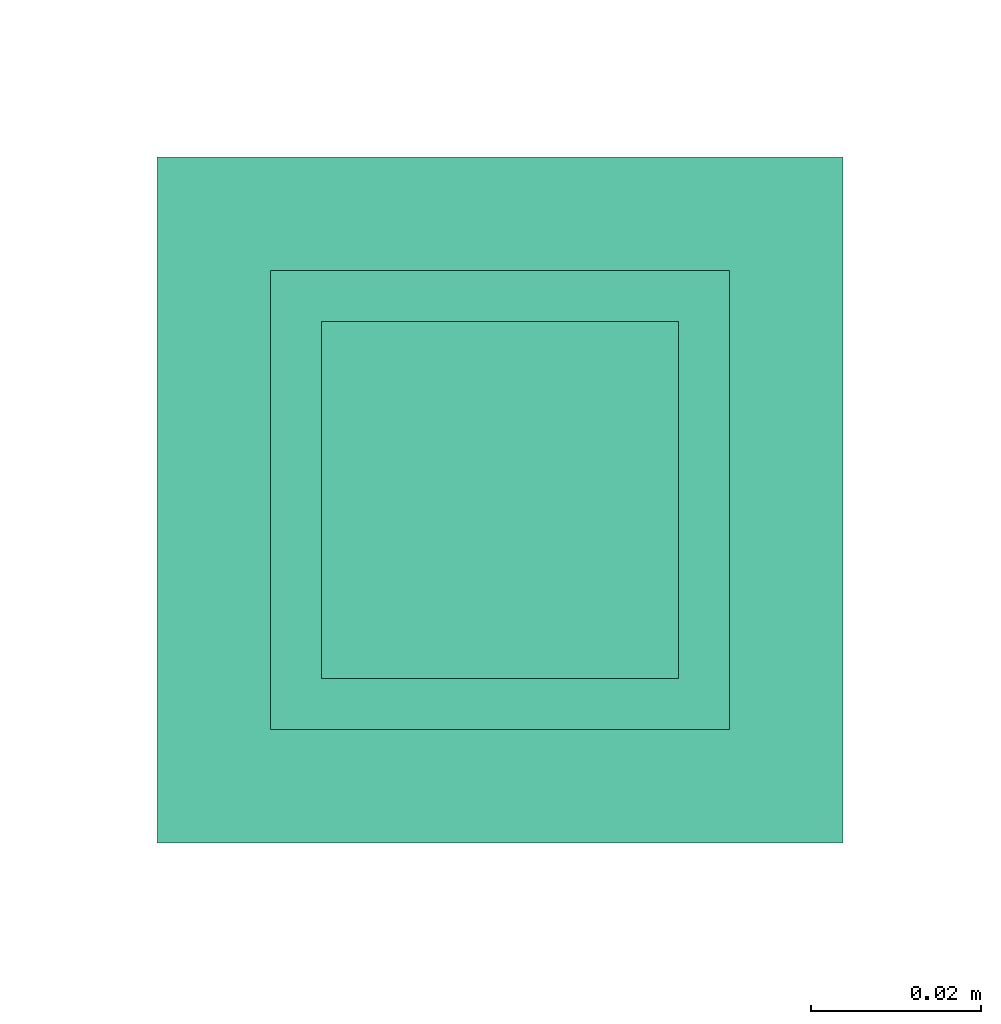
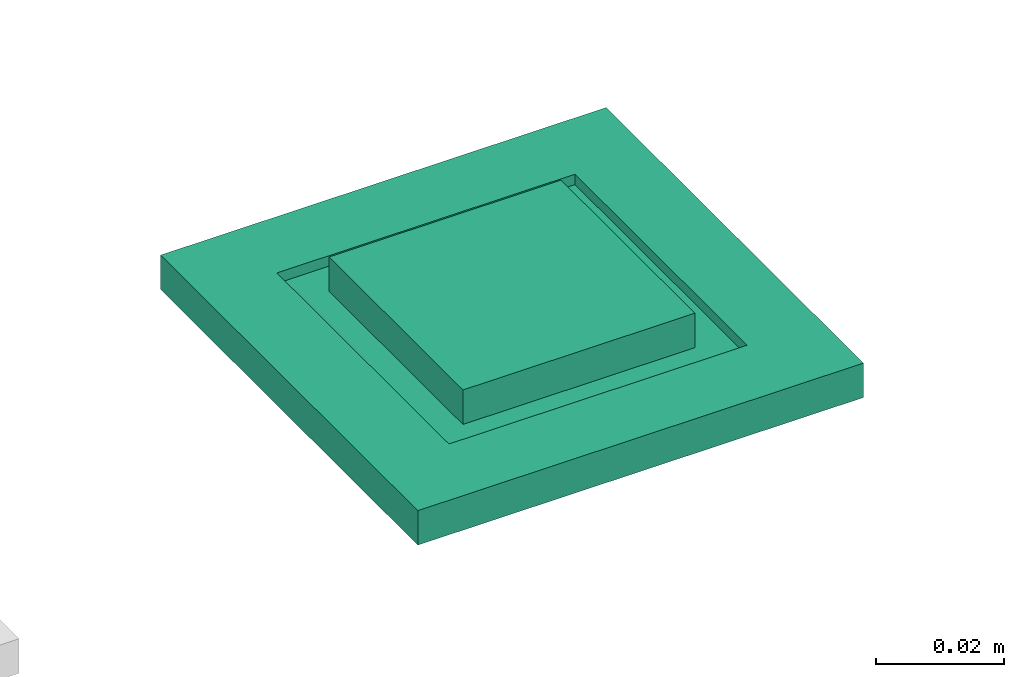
# One storey, part 106 of 146: 1 flow terminal.
"""IFC2X3 building model written with IfcOpenShell, lengths in metres."""

import ifcopenshell
import ifcopenshell.guid

model = None  # the IFC model being written
_history = None  # IfcOwnerHistory: only IFC2X3 demands one
_inside = {}  # id of a spatial element -> (the spatial element, [elements in it])
_under = {}  # id of a project, library or spatial element -> (it, [spatial elements below it])
_declared = {}  # id of a project -> (the project, [libraries it declares])
_typed = {}  # id of a type object -> (the type object, [elements of that type])
_made_of = {}  # id of a material, layer set ... -> (it, [elements and type objects made of it])


def new_model(schema):
    """Start an empty IFC model of exactly this schema.

    Asked for "IFC4X3", IfcOpenShell would pick the latest addendum, in which some entities
    have other attributes; the version numbers below select the first issue.
    IFC2X3 requires an IfcOwnerHistory on every rooted entity: one is made here for all.
    """
    global model, _history
    if schema == "IFC4X3":
        model = ifcopenshell.file(schema_version=(4, 3, 0, 0))
    else:
        model = ifcopenshell.file(schema=schema)
    _inside.clear()
    _under.clear()
    _declared.clear()
    _typed.clear()
    _made_of.clear()
    _history = None
    if model.schema == "IFC2X3":
        org = make("IfcOrganization", Name="unknown")
        user = make(
            "IfcPersonAndOrganization",
            ThePerson=make("IfcPerson", FamilyName="unknown"),
            TheOrganization=org,
        )
        app = make(
            "IfcApplication",
            ApplicationDeveloper=org,
            Version="unknown",
            ApplicationFullName="unknown",
            ApplicationIdentifier="unknown",
        )
        _history = make(
            "IfcOwnerHistory",
            OwningUser=user,
            OwningApplication=app,
            ChangeAction="ADDED",
            CreationDate=0,
        )
    return model


def make(cls, **values):
    """One entity of the class cls with the attributes given. An attribute that is None is left unset."""
    return model.create_entity(
        cls, **{name: value for name, value in values.items() if value is not None}
    )


def entity(cls, *values):
    """Any entity or typed value of the class cls, its attributes in the order of the schema. None: left unset."""
    e = model.create_entity(cls)
    for i, value in enumerate(values):
        if value is not None:
            e[i] = value
    return e


def rooted(cls, **values):
    """An entity with a GlobalId (a new one), such as an element, a storey or a relation."""
    return make(cls, GlobalId=ifcopenshell.guid.new(), OwnerHistory=_history, **values)


def si_unit(unit_type, name, prefix=None):
    """IfcSIUnit, for example si_unit("LENGTHUNIT", "METRE", prefix="MILLI")."""
    return make("IfcSIUnit", UnitType=unit_type, Prefix=prefix, Name=name)


def converted_unit(unit_type, name, factor, base, dimensions=None, offset=None):
    """IfcConversionBasedUnit, such as the inch: factor (a typed value) times the base unit."""
    return make(
        "IfcConversionBasedUnit"
        if offset is None
        else "IfcConversionBasedUnitWithOffset",
        ConversionOffset=offset,
        Dimensions=None
        if dimensions is None
        else entity("IfcDimensionalExponents", *dimensions),
        UnitType=unit_type,
        Name=name,
        ConversionFactor=make(
            "IfcMeasureWithUnit", ValueComponent=factor, UnitComponent=base
        ),
    )


def derived_unit(unit_type, elements):
    """IfcDerivedUnit: a product of units, each with its exponent."""
    return make(
        "IfcDerivedUnit",
        Elements=[
            make("IfcDerivedUnitElement", Unit=unit, Exponent=power)
            for unit, power in elements
        ],
        UnitType=unit_type,
    )


def assignment(units):
    """IfcUnitAssignment: the units of a project."""
    return None if units is None else make("IfcUnitAssignment", Units=units)


def point(xyz):
    """IfcCartesianPoint."""
    return None if xyz is None else make("IfcCartesianPoint", Coordinates=xyz)


def direction(xyz):
    """IfcDirection."""
    return None if xyz is None else make("IfcDirection", DirectionRatios=xyz)


def frame(location, z_axis=None, x_axis=None):
    """IfcAxis2Placement3D, a coordinate frame: its origin and axes. An axis left out is left unset."""
    return make(
        "IfcAxis2Placement3D",
        Location=point(location),
        Axis=direction(z_axis),
        RefDirection=direction(x_axis),
    )


def origin():
    """The frame at (0, 0, 0) with its axes left unset."""
    return frame((0.0, 0.0, 0.0))


def place(relative_to, where):
    """IfcLocalPlacement: puts the frame where relative to a parent placement (None: the world)."""
    return make(
        "IfcLocalPlacement", PlacementRelTo=relative_to, RelativePlacement=where
    )


def context(
    kind, dimensions, precision=None, world=None, true_north=None, identifier=None
):
    """IfcGeometricRepresentationContext, for example the 3D "Model" context."""
    return make(
        "IfcGeometricRepresentationContext",
        ContextIdentifier=identifier,
        ContextType=kind,
        CoordinateSpaceDimension=dimensions,
        Precision=precision,
        WorldCoordinateSystem=world,
        TrueNorth=true_north,
    )


def subcontext(parent, identifier, kind, view, scale=None):
    """IfcGeometricRepresentationSubContext, for example "Body" below "Model"."""
    return make(
        "IfcGeometricRepresentationSubContext",
        ContextIdentifier=identifier,
        ContextType=kind,
        ParentContext=parent,
        TargetScale=scale,
        TargetView=view,
    )


def project(units=None, contexts=None):
    """IfcProject with its units and contexts."""
    return rooted(
        "IfcProject",
        Name="project",
        RepresentationContexts=contexts,
        UnitsInContext=assignment(units),
    )


def spatial(cls, under=None, at=None, **own):
    """A site, building, storey or space (cls), placed at a placement, below another one or the project."""
    s = rooted(cls, ObjectPlacement=at, **own)
    if under is not None:
        _under.setdefault(under.id(), (under, []))[1].append(s)
    return s


def faces_of(points, faces, orient=None, outer=None):
    """IfcFace entities. A face is a list of loops; a loop is a list of indices into points, from 0.

    orient and outer hold one flag for each loop. By default every Orientation is true, the
    first loop of a face is its IfcFaceOuterBound and the others are IfcFaceBound.
    """
    made = []
    for i, loops in enumerate(faces):
        bounds = []
        for j, loop in enumerate(loops):
            is_outer = j == 0 if outer is None else outer[i][j]
            bounds.append(
                make(
                    "IfcFaceOuterBound" if is_outer else "IfcFaceBound",
                    Bound=make("IfcPolyLoop", Polygon=[points[k] for k in loop]),
                    Orientation=True if orient is None else orient[i][j],
                )
            )
        made.append(make("IfcFace", Bounds=bounds))
    return made


def faceted_brep(points, faces, orient=None, outer=None, voids=None):
    """IfcFacetedBrep: a solid bounded by flat faces; with voids (closed shells), ...WithVoids."""
    shared = [point(p) for p in points]
    hull = make("IfcClosedShell", CfsFaces=faces_of(shared, faces, orient, outer))
    if voids is None:
        return make("IfcFacetedBrep", Outer=hull)
    return make(
        "IfcFacetedBrepWithVoids",
        Outer=hull,
        Voids=[
            make(cls, CfsFaces=faces_of(shared, fs, o, b)) for cls, fs, o, b in voids
        ],
    )


def shape(context_of_items, identifier, shape_type, items):
    """IfcShapeRepresentation: the items that make up one representation, for example the "Body"."""
    return make(
        "IfcShapeRepresentation",
        ContextOfItems=context_of_items,
        RepresentationIdentifier=identifier,
        RepresentationType=shape_type,
        Items=items,
    )


def source(mapping_origin, context_of_items, identifier, shape_type, items):
    """IfcRepresentationMap: a shape defined once, which mapped items show again and again."""
    return make(
        "IfcRepresentationMap",
        MappingOrigin=mapping_origin,
        MappedRepresentation=shape(context_of_items, identifier, shape_type, items),
    )


def transform(
    local_origin,
    x_axis=None,
    y_axis=None,
    z_axis=None,
    scale=None,
    scale2=None,
    scale3=None,
    uniform=True,
):
    """IfcCartesianTransformationOperator3D, or its non-uniform kind. x_axis, y_axis, z_axis: its Axis1, 2, 3."""
    if uniform:
        return make(
            "IfcCartesianTransformationOperator3D",
            Axis1=direction(x_axis),
            Axis2=direction(y_axis),
            LocalOrigin=point(local_origin),
            Scale=scale,
            Axis3=direction(z_axis),
        )
    return make(
        "IfcCartesianTransformationOperator3DnonUniform",
        Axis1=direction(x_axis),
        Axis2=direction(y_axis),
        LocalOrigin=point(local_origin),
        Scale=scale,
        Axis3=direction(z_axis),
        Scale2=scale2,
        Scale3=scale3,
    )


def mapped(mapping_source, mapping_target):
    """IfcMappedItem: shows the shape of a source again, moved by a transform."""
    return make(
        "IfcMappedItem", MappingSource=mapping_source, MappingTarget=mapping_target
    )


def made_of(thing, what):
    """Note that an element or type object is made of a material, layer set ...; save() writes the relation."""
    if what is not None:
        _made_of.setdefault(what.id(), (what, []))[1].append(thing)
    return thing


def type_object(cls, material=None, **own):
    """A type object (cls), such as IfcWallType, which elements share."""
    return made_of(rooted(cls, **own), material)


def type_shapes(of_type, sources):
    """Give a type object the sources (RepresentationMaps) that its elements show as mapped items."""
    of_type.RepresentationMaps = sources


def element(
    cls,
    number,
    at=None,
    inside=None,
    cuts=None,
    type_object=None,
    material=None,
    context=None,
    identifier="Body",
    shape_type=None,
    held_by="IfcProductDefinitionShape",
    body=None,
    shapes=None,
    **own,
):
    """One element of the class cls, such as IfcWall. Its Tag is "e" and its number.

    at: its placement. inside: the storey or other place that contains it. cuts: it is an
    opening in that element (IfcRelVoidsElement). A single representation is given by context,
    identifier, shape_type and body (its items); several are given by shapes. held_by: the class
    of the entity that holds the representations. save() writes the other relations.
    """
    e = rooted(cls, Tag="e%d" % number, ObjectPlacement=at, **own)
    if body is not None:
        shapes = [shape(context, identifier, shape_type, body)]
    if shapes is not None:
        e.Representation = make(held_by, Representations=shapes)
    if inside is not None:
        _inside.setdefault(inside.id(), (inside, []))[1].append(e)
    if cuts is not None:
        rooted(
            "IfcRelVoidsElement", RelatingBuildingElement=cuts, RelatedOpeningElement=e
        )
    if type_object is not None:
        _typed.setdefault(type_object.id(), (type_object, []))[1].append(e)
    return made_of(e, material)


def aggregate(whole, parts):
    """IfcRelAggregates: a whole, such as a stair, and the parts it consists of."""
    return rooted("IfcRelAggregates", RelatingObject=whole, RelatedObjects=parts)


def save(model, path):
    """Write the relations noted so far, then the file.

    IfcRelAggregates (storeys below a building ...), IfcRelContainedInSpatialStructure (elements
    in a storey), IfcRelDefinesByType, IfcRelAssociatesMaterial and IfcRelDeclares: one each for
    every whole, place, type object, material and project.
    """
    for whole, parts in _under.values():
        aggregate(whole, parts)
    for where, things in _inside.values():
        rooted(
            "IfcRelContainedInSpatialStructure",
            RelatedElements=things,
            RelatingStructure=where,
        )
    for kind, things in _typed.values():
        rooted("IfcRelDefinesByType", RelatedObjects=things, RelatingType=kind)
    for what, things in _made_of.values():
        rooted("IfcRelAssociatesMaterial", RelatedObjects=things, RelatingMaterial=what)
    for by, libraries in _declared.values():
        rooted("IfcRelDeclares", RelatingContext=by, RelatedDefinitions=libraries)
    model.write(path)


model = new_model("IFC2X3")

# Units and contexts
model_context = context("Model", 3, precision=1e-05, world=origin(), true_north=direction((6.12303176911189e-17, 1.0)))
body_context = subcontext(model_context, "Body", "Model", "MODEL_VIEW")
ifc_project = project(units=[si_unit("LENGTHUNIT", "METRE"), si_unit("AREAUNIT", "SQUARE_METRE"), si_unit("VOLUMEUNIT", "CUBIC_METRE"), converted_unit("PLANEANGLEUNIT", "DEGREE", entity("IfcRatioMeasure", 0.0174532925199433), si_unit("PLANEANGLEUNIT", "RADIAN"), dimensions=[0, 0, 0, 0, 0, 0, 0]), si_unit("MASSUNIT", "GRAM", prefix="KILO"), derived_unit("MASSDENSITYUNIT", [(si_unit("MASSUNIT", "GRAM", prefix="KILO"), 1), (si_unit("LENGTHUNIT", "METRE"), -3)]), si_unit("TIMEUNIT", "SECOND"), si_unit("FREQUENCYUNIT", "HERTZ"), si_unit("THERMODYNAMICTEMPERATUREUNIT", "DEGREE_CELSIUS"), derived_unit("THERMALTRANSMITTANCEUNIT", [(si_unit("MASSUNIT", "GRAM", prefix="KILO"), 1), (si_unit("THERMODYNAMICTEMPERATUREUNIT", "KELVIN"), -1), (si_unit("TIMEUNIT", "SECOND"), -3)]), derived_unit("VOLUMETRICFLOWRATEUNIT", [(si_unit("LENGTHUNIT", "METRE"), 3), (si_unit("TIMEUNIT", "SECOND"), -1)]), si_unit("ELECTRICCURRENTUNIT", "AMPERE"), si_unit("ELECTRICVOLTAGEUNIT", "VOLT"), si_unit("POWERUNIT", "WATT"), si_unit("FORCEUNIT", "NEWTON"), si_unit("ILLUMINANCEUNIT", "LUX"), si_unit("LUMINOUSFLUXUNIT", "LUMEN"), si_unit("LUMINOUSINTENSITYUNIT", "CANDELA"), derived_unit("USERDEFINED", [(si_unit("MASSUNIT", "GRAM", prefix="KILO"), -1), (si_unit("LENGTHUNIT", "METRE"), -2), (si_unit("TIMEUNIT", "SECOND"), 3), (si_unit("LUMINOUSFLUXUNIT", "LUMEN"), 1)]), derived_unit("LINEARVELOCITYUNIT", [(si_unit("LENGTHUNIT", "METRE"), 1), (si_unit("TIMEUNIT", "SECOND"), -1)]), si_unit("PRESSUREUNIT", "PASCAL"), derived_unit("USERDEFINED", [(si_unit("LENGTHUNIT", "METRE"), -2), (si_unit("MASSUNIT", "GRAM", prefix="KILO"), 1), (si_unit("TIMEUNIT", "SECOND"), -2)])], contexts=[model_context])

# Site, building, storey
site_placement = place(None, origin())
site = spatial("IfcSite", under=ifc_project, at=site_placement, Name="Default", CompositionType="ELEMENT")
building_placement = place(site_placement, origin())
building = spatial("IfcBuilding", under=site, at=building_placement, CompositionType="ELEMENT")
storey_placement = place(building_placement, origin())
storey = spatial("IfcBuildingStorey", under=building, at=storey_placement, Name="S01", CompositionType="ELEMENT", Elevation=0.0)

# Flow terminal
electric_appliance_type = type_object("IfcElectricApplianceType", Name="RJ45 IP21", PredefinedType="NOTDEFINED")
shared_shape = source(origin(), body_context, "Body", "Brep", [
    faceted_brep([(0.00200000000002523, 0.0, 0.00799999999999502), (0.00400000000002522, 0.0, 0.00799999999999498), (0.00500000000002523, 0.00199999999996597, 0.00799999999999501), (0.0110000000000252, 0.00199999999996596, 0.00799999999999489), (0.0120000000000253, 0.0, 0.00799999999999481), (0.0140000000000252, 0.0, 0.00799999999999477), (0.0140000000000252, 0.00399999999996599, 0.00799999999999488), (0.00200000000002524, 0.00399999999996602, 0.00799999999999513), (0.00200000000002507, 0.0, 0.0), (0.00200000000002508, 0.00399999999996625, 0.0), (0.0140000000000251, 0.00399999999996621, 0.0), (0.0140000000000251, 0.0, 0.0), (0.0120000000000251, 0.0, 0.0), (0.0110000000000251, 0.00199999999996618, 0.0), (0.00500000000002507, 0.0019999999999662, 0.0), (0.00400000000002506, 0.0, 0.0)], [[[0, 1, 2, 3, 4, 5, 6, 7]], [[8, 9, 10, 11, 12, 13, 14, 15]], [[1, 0, 8, 15]], [[2, 1, 15, 14]], [[3, 2, 14, 13]], [[4, 3, 13, 12]], [[5, 4, 12, 11]], [[6, 5, 11, 10]], [[7, 6, 10, 9]], [[0, 7, 9, 8]]]),
    faceted_brep([(-0.0139999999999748, 0.0, 0.00799999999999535), (-0.0119999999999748, 0.0, 0.00799999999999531), (-0.0109999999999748, 0.00199999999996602, 0.00799999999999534), (-0.00499999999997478, 0.00199999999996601, 0.00799999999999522), (-0.0039999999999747, 0.0, 0.00799999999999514), (-0.00199999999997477, 0.0, 0.0079999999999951), (-0.00199999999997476, 0.00399999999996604, 0.00799999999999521), (-0.0139999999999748, 0.00399999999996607, 0.00799999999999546), (-0.0139999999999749, 0.0, 0.0), (-0.0139999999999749, 0.00399999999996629, 0.0), (-0.00199999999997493, 0.00399999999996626, 0.0), (-0.00199999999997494, 0.0, 0.0), (-0.00399999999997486, 0.0, 0.0), (-0.00499999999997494, 0.00199999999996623, 0.0), (-0.0109999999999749, 0.00199999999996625, 0.0), (-0.0119999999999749, 0.0, 0.0)], [[[0, 1, 2, 3, 4, 5, 6, 7]], [[8, 9, 10, 11, 12, 13, 14, 15]], [[1, 0, 8, 15]], [[2, 1, 15, 14]], [[3, 2, 14, 13]], [[4, 3, 13, 12]], [[5, 4, 12, 11]], [[6, 5, 11, 10]], [[7, 6, 10, 9]], [[0, 7, 9, 8]]]),
    faceted_brep([(0.0140000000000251, 0.00399999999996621, 0.0), (0.00200000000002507, 0.00399999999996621, 0.0), (0.00200000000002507, -0.00350000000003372, 0.0), (0.0140000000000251, -0.00350000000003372, 0.0), (0.0140000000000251, 0.00399999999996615, 0.00199999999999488), (0.00200000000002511, 0.00399999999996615, 0.00199999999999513), (0.00200000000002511, -0.00393859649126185, 0.00199999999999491), (0.0140000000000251, -0.00393859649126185, 0.00199999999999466), (0.0210000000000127, 0.0209999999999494, 0.00199999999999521), (-0.0209999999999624, 0.0209999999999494, 0.00199999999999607), (-0.0209999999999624, -0.0210000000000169, 0.00199999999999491), (0.0210000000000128, -0.0210000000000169, 0.00199999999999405), (-0.0139999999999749, 0.0039999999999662, 0.00199999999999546), (-0.0019999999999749, 0.0039999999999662, 0.00199999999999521), (-0.00199999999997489, -0.0039385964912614, 0.00199999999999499), (-0.0139999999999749, -0.00393859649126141, 0.00199999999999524), (0.0210000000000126, 0.0209999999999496, -0.00460000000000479), (0.0210000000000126, -0.0210000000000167, -0.00460000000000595), (-0.0209999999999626, -0.0210000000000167, -0.00460000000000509), (-0.0209999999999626, 0.0209999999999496, -0.00460000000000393), (-0.00199999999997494, 0.00399999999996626, 0.0), (-0.0139999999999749, 0.00399999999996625, 0.0), (-0.0139999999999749, -0.00350000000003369, 0.0), (-0.00199999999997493, -0.00350000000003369, 0.0)], [[[0, 1, 2, 3]], [[1, 0, 4, 5]], [[2, 1, 5, 6]], [[3, 2, 6, 7]], [[0, 3, 7, 4]], [[5, 4, 7, 6], [8, 9, 10, 11], [12, 13, 14, 15]], [[16, 17, 18, 19]], [[9, 8, 16, 19]], [[10, 9, 19, 18]], [[11, 10, 18, 17]], [[8, 11, 17, 16]], [[20, 21, 22, 23]], [[21, 20, 13, 12]], [[22, 21, 12, 15]], [[23, 22, 15, 14]], [[20, 23, 14, 13]]], outer=[[True], [True], [True], [True], [True], [False, True, False], [True], [True], [True], [True], [True], [True], [True], [True], [True], [True]]),
    faceted_brep([(0.0270000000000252, 0.026999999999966, 0.0113999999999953), (-0.0269999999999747, 0.026999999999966, 0.0113999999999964), (-0.0269999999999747, -0.0270000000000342, 0.0113999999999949), (0.0270000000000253, -0.0270000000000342, 0.0113999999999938), (0.0020000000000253, 0.00399999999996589, 0.0113999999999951), (0.0140000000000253, 0.00399999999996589, 0.0113999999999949), (0.0140000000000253, -0.00600000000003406, 0.0113999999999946), (0.0020000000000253, -0.00600000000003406, 0.0113999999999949), (-0.0139999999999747, 0.00399999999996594, 0.0113999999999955), (-0.00199999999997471, 0.00399999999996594, 0.0113999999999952), (-0.00199999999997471, -0.0060000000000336, 0.0113999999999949), (-0.0139999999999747, -0.00600000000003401, 0.0113999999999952), (0.0270000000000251, 0.0269999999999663, 0.00199999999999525), (0.0270000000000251, -0.0270000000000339, 0.00199999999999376), (-0.0269999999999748, -0.0270000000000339, 0.00199999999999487), (-0.0269999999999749, 0.0269999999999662, 0.00199999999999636), (0.0140000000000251, 0.00399999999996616, 0.00199999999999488), (0.00200000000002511, 0.00399999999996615, 0.00199999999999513), (0.00200000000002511, -0.00393859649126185, 0.00199999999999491), (0.0140000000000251, -0.00393859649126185, 0.00199999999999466), (-0.00199999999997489, 0.0039999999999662, 0.00199999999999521), (-0.0139999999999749, 0.0039999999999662, 0.00199999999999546), (-0.0139999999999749, -0.0039385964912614, 0.00199999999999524), (-0.00199999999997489, -0.0039385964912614, 0.00199999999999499)], [[[0, 1, 2, 3], [4, 5, 6, 7], [8, 9, 10, 11]], [[12, 13, 14, 15], [16, 17, 18, 19], [20, 21, 22, 23]], [[1, 0, 12, 15]], [[2, 1, 15, 14]], [[3, 2, 14, 13]], [[0, 3, 13, 12]], [[4, 17, 16, 5]], [[17, 4, 7, 18]], [[18, 7, 6, 19]], [[5, 16, 19, 6]], [[8, 21, 20, 9]], [[21, 8, 11, 22]], [[22, 11, 10, 23]], [[9, 20, 23, 10]]]),
    faceted_brep([(0.027000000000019, 0.0269999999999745, 0.00659999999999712), (-0.0269999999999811, 0.0269999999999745, 0.00659999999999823), (-0.026999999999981, -0.0270000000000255, 0.00659999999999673), (0.027000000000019, -0.0270000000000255, 0.00659999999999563), (0.040350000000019, 0.0403499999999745, 0.00659999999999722), (0.040350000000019, -0.0403500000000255, 0.00659999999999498), (-0.0403499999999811, -0.0403500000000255, 0.00659999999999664), (-0.0403499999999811, 0.0403499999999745, 0.00659999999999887), (-0.026999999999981, 0.0269999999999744, 0.0103999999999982), (0.027000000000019, 0.0269999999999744, 0.0103999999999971), (-0.026999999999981, -0.0270000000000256, 0.0103999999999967), (0.027000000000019, -0.0270000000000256, 0.0103999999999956)], [[[0, 1, 2, 3], [4, 5, 6, 7]], [[4, 7, 8, 9]], [[7, 6, 10, 8]], [[6, 5, 11, 10]], [[5, 4, 9, 11]], [[0, 9, 8, 1]], [[1, 8, 10, 2]], [[2, 10, 11, 3]], [[9, 0, 3, 11]]], outer=[[False, True], [True], [True], [True], [True], [True], [True], [True], [True]]),
    faceted_brep([(0.040350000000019, 0.0403499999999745, 0.00659999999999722), (-0.0403499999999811, 0.0403499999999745, 0.00659999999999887), (-0.0403499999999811, -0.0403500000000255, 0.00659999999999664), (0.040350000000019, -0.0403500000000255, 0.00659999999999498), (-0.0269999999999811, 0.0269999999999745, 0.00659999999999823), (0.0270000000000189, 0.0269999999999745, 0.00659999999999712), (0.0270000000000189, -0.0270000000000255, 0.00659999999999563), (-0.0269999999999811, -0.0270000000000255, 0.00659999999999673), (0.0403500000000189, 0.0403499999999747, 0.0), (0.0403500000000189, -0.0403500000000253, 0.0), (-0.0403499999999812, -0.0403500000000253, 0.0), (-0.0403499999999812, 0.0403499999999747, 0.0), (0.0270000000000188, 0.0269999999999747, 0.0), (-0.0269999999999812, 0.0269999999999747, 0.0), (-0.0269999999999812, -0.0270000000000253, 0.0), (0.0270000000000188, -0.0270000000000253, 0.0)], [[[0, 1, 2, 3], [4, 5, 6, 7]], [[8, 9, 10, 11], [12, 13, 14, 15]], [[1, 0, 8, 11]], [[2, 1, 11, 10]], [[3, 2, 10, 9]], [[0, 3, 9, 8]], [[12, 5, 4, 13]], [[13, 4, 7, 14]], [[14, 7, 6, 15]], [[5, 12, 15, 6]]]),
])
type_shapes(electric_appliance_type, [shared_shape])
flow_terminal_placement = place(storey_placement, frame((66.0596219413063, -189.400957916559, 3.37), z_axis=(0.0, 0.0, -1.0), x_axis=(-1.0, 0.0, 0.0)))
element("IfcFlowTerminal", 1, at=flow_terminal_placement, inside=storey, type_object=electric_appliance_type, Name="INT_Prise RJ45:RJ45 IP21", ObjectType="INT_Prise RJ45:RJ45 IP21", context=body_context, shape_type="MappedRepresentation", body=[
    mapped(shared_shape, transform((0.0, 0.0, 0.0), scale=1.0)),
])

save(model, "model.ifc")
